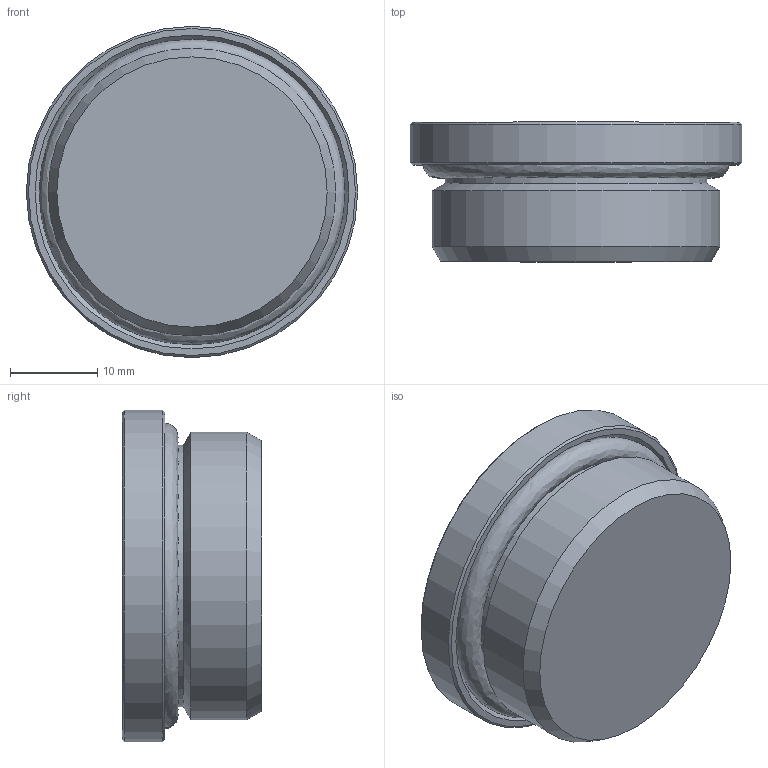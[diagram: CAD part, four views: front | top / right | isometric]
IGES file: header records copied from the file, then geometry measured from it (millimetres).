
Start section: SolidWorks IGES file using analytic representation for surfaces
Global section: file name: C:\Users\Cad05\Desktop\3015\0301500010A.IGS; native system: SolidWorks 2012; preprocessor: SolidWorks 2012; author: cad05; date: 131120.151723; units: millimetre
Bounding box: 38 x 16 x 38 mm (x, y, z)
Surface area: 5853.3 mm2 (no closed solid volume)
Topology: 0 solids, 0 shells, 36 faces, 177 edges, 158 vertices
Faces by surface type: bspline 22, revolution 14
